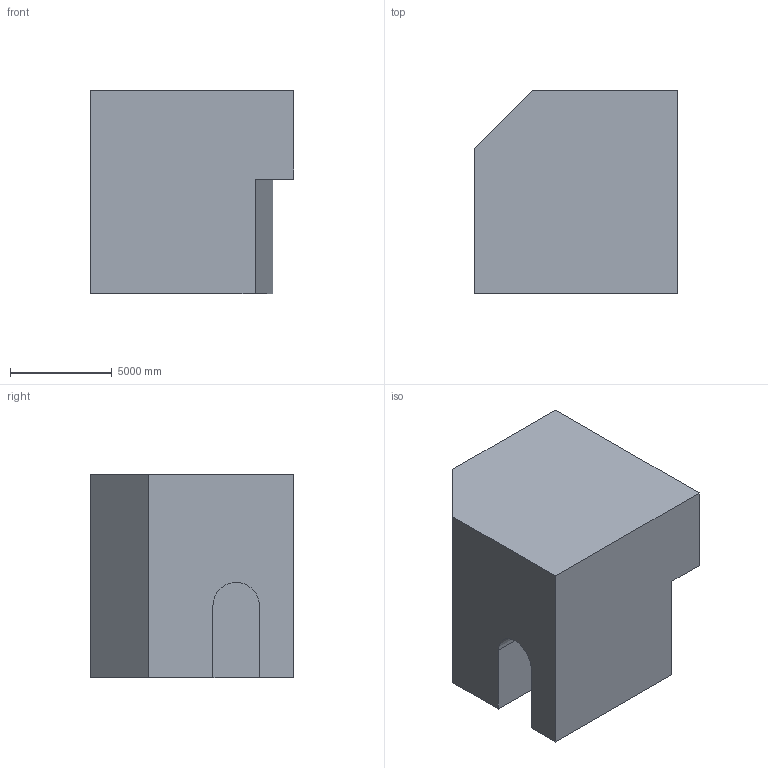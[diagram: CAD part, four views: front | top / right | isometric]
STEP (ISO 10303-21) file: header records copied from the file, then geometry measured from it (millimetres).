
FILE_DESCRIPTION (( 'STEP AP203' ), '1' );
FILE_NAME ('1220.STEP', '2022-08-18T13:14:59', ( 'user' ), ( '' ), 'SwSTEP 2.0', 'SolidWorks 2021', '' );
FILE_SCHEMA (( 'CONFIG_CONTROL_DESIGN' ));
Length unit declared in the file: centimetre
Products named in the file (1): 1220
Bounding box: 10000 x 10000 x 10000 mm (x, y, z)
Volume: 834481383118.4 mm3; surface area: 589907253.9 mm2
Topology: 1 solids, 1 shells, 15 faces, 39 edges, 26 vertices
Faces by surface type: plane 13, cylinder 2
Entity records: 534 total; most frequent: CARTESIAN_POINT 81, ORIENTED_EDGE 78, DIRECTION 75, EDGE_CURVE 39, VECTOR 35, LINE 35, VERTEX_POINT 26, AXIS2_PLACEMENT_3D 20
